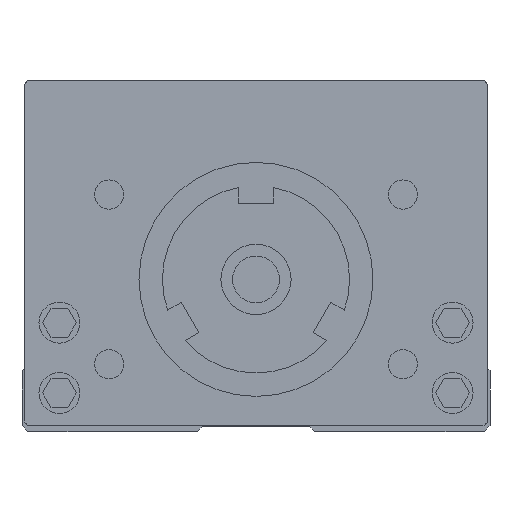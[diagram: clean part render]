
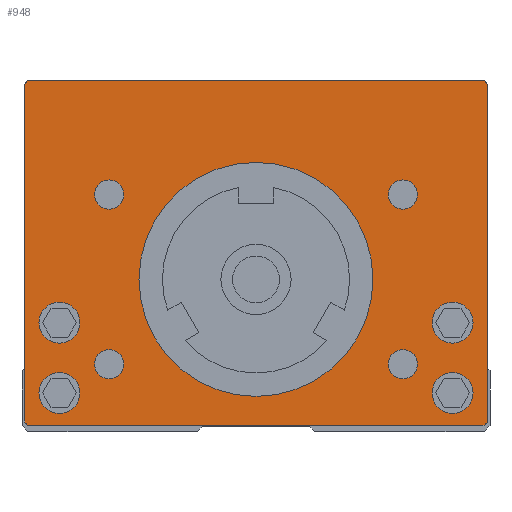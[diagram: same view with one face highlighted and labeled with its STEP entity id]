
A CAD part, front view. The second image highlights one B-rep face of the part: STEP entity #948.
In plain terms, the highlighted planar face has unit normal (0, -1, 0).
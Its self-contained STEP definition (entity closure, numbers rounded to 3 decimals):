
#399=FACE_BOUND('',#2227,.T.);
#400=FACE_BOUND('',#2228,.T.);
#401=FACE_BOUND('',#2229,.T.);
#402=FACE_BOUND('',#2230,.T.);
#403=FACE_BOUND('',#2231,.T.);
#404=FACE_BOUND('',#2232,.T.);
#405=FACE_BOUND('',#2233,.T.);
#406=FACE_BOUND('',#2234,.T.);
#407=FACE_BOUND('',#2235,.T.);
#408=FACE_BOUND('',#2236,.T.);
#948=ADVANCED_FACE('',(#399,#400,#401,#402,#403,#404,#405,#406,#407,#408),
#1437,.F.);
#1437=PLANE('',#9478);
#2227=EDGE_LOOP('',(#3371,#3372,#3373,#3374,#3375,#3376,#3377,#3378));
#2228=EDGE_LOOP('',(#3379));
#2229=EDGE_LOOP('',(#3380));
#2230=EDGE_LOOP('',(#3381));
#2231=EDGE_LOOP('',(#3382));
#2232=EDGE_LOOP('',(#3383));
#2233=EDGE_LOOP('',(#3384));
#2234=EDGE_LOOP('',(#3385));
#2235=EDGE_LOOP('',(#3386));
#2236=EDGE_LOOP('',(#3387));
#2850=CIRCLE('',#9404,1.25);
#2851=CIRCLE('',#9406,1.25);
#2852=CIRCLE('',#9408,1.25);
#2853=CIRCLE('',#9410,1.25);
#2859=CIRCLE('',#9420,1.75);
#2861=CIRCLE('',#9423,1.75);
#2863=CIRCLE('',#9426,1.75);
#2865=CIRCLE('',#9429,1.75);
#2867=CIRCLE('',#9432,10.);
#2883=CIRCLE('',#9461,0.5);
#2889=CIRCLE('',#9473,0.5);
#2890=CIRCLE('',#9475,0.5);
#2891=CIRCLE('',#9477,0.5);
#3371=ORIENTED_EDGE('',*,*,#6601,.F.);
#3372=ORIENTED_EDGE('',*,*,#6597,.F.);
#3373=ORIENTED_EDGE('',*,*,#6568,.F.);
#3374=ORIENTED_EDGE('',*,*,#6583,.F.);
#3375=ORIENTED_EDGE('',*,*,#6602,.F.);
#3376=ORIENTED_EDGE('',*,*,#6600,.F.);
#3377=ORIENTED_EDGE('',*,*,#6603,.F.);
#3378=ORIENTED_EDGE('',*,*,#6604,.F.);
#3379=ORIENTED_EDGE('',*,*,#6538,.F.);
#3380=ORIENTED_EDGE('',*,*,#6536,.F.);
#3381=ORIENTED_EDGE('',*,*,#6540,.F.);
#3382=ORIENTED_EDGE('',*,*,#6542,.F.);
#3383=ORIENTED_EDGE('',*,*,#6528,.F.);
#3384=ORIENTED_EDGE('',*,*,#6527,.F.);
#3385=ORIENTED_EDGE('',*,*,#6526,.F.);
#3386=ORIENTED_EDGE('',*,*,#6525,.F.);
#3387=ORIENTED_EDGE('',*,*,#6544,.F.);
#5673=VERTEX_POINT('',#12931);
#5674=VERTEX_POINT('',#12934);
#5675=VERTEX_POINT('',#12937);
#5676=VERTEX_POINT('',#12940);
#5682=VERTEX_POINT('',#12958);
#5684=VERTEX_POINT('',#12963);
#5686=VERTEX_POINT('',#12968);
#5688=VERTEX_POINT('',#12973);
#5690=VERTEX_POINT('',#12978);
#5708=VERTEX_POINT('',#13028);
#5709=VERTEX_POINT('',#13029);
#5716=VERTEX_POINT('',#13055);
#5722=VERTEX_POINT('',#13091);
#5723=VERTEX_POINT('',#13095);
#5724=VERTEX_POINT('',#13097);
#5725=VERTEX_POINT('',#13101);
#5726=VERTEX_POINT('',#13104);
#6525=EDGE_CURVE('',#5673,#5673,#2850,.T.);
#6526=EDGE_CURVE('',#5674,#5674,#2851,.T.);
#6527=EDGE_CURVE('',#5675,#5675,#2852,.T.);
#6528=EDGE_CURVE('',#5676,#5676,#2853,.T.);
#6536=EDGE_CURVE('',#5682,#5682,#2859,.T.);
#6538=EDGE_CURVE('',#5684,#5684,#2861,.T.);
#6540=EDGE_CURVE('',#5686,#5686,#2863,.T.);
#6542=EDGE_CURVE('',#5688,#5688,#2865,.T.);
#6544=EDGE_CURVE('',#5690,#5690,#2867,.T.);
#6568=EDGE_CURVE('',#5708,#5709,#7746,.T.);
#6583=EDGE_CURVE('',#5716,#5708,#2883,.T.);
#6597=EDGE_CURVE('',#5709,#5722,#2889,.T.);
#6600=EDGE_CURVE('',#5724,#5723,#2890,.T.);
#6601=EDGE_CURVE('',#5722,#5725,#7763,.T.);
#6602=EDGE_CURVE('',#5723,#5716,#7764,.T.);
#6603=EDGE_CURVE('',#5726,#5724,#7765,.T.);
#6604=EDGE_CURVE('',#5725,#5726,#2891,.T.);
#7746=LINE('',#13027,#8581);
#7763=LINE('',#13100,#8598);
#7764=LINE('',#13102,#8599);
#7765=LINE('',#13103,#8600);
#8581=VECTOR('',#10472,1.);
#8598=VECTOR('',#10543,1.);
#8599=VECTOR('',#10544,1.);
#8600=VECTOR('',#10545,1.);
#9404=AXIS2_PLACEMENT_3D('',#12930,#10364,#10365);
#9406=AXIS2_PLACEMENT_3D('',#12933,#10368,#10369);
#9408=AXIS2_PLACEMENT_3D('',#12936,#10372,#10373);
#9410=AXIS2_PLACEMENT_3D('',#12939,#10376,#10377);
#9420=AXIS2_PLACEMENT_3D('',#12957,#10398,#10399);
#9423=AXIS2_PLACEMENT_3D('',#12962,#10404,#10405);
#9426=AXIS2_PLACEMENT_3D('',#12967,#10410,#10411);
#9429=AXIS2_PLACEMENT_3D('',#12972,#10416,#10417);
#9432=AXIS2_PLACEMENT_3D('',#12977,#10422,#10423);
#9461=AXIS2_PLACEMENT_3D('',#13056,#10503,#10504);
#9473=AXIS2_PLACEMENT_3D('',#13092,#10533,#10534);
#9475=AXIS2_PLACEMENT_3D('',#13098,#10539,#10540);
#9477=AXIS2_PLACEMENT_3D('',#13105,#10546,#10547);
#9478=AXIS2_PLACEMENT_3D('',#13106,#10548,#10549);
#10364=DIRECTION('',(0.,-1.,0.));
#10365=DIRECTION('',(1.,0.,0.));
#10368=DIRECTION('',(0.,-1.,0.));
#10369=DIRECTION('',(1.,0.,0.));
#10372=DIRECTION('',(0.,-1.,0.));
#10373=DIRECTION('',(1.,0.,0.));
#10376=DIRECTION('',(0.,-1.,0.));
#10377=DIRECTION('',(1.,0.,0.));
#10398=DIRECTION('',(0.,-1.,0.));
#10399=DIRECTION('',(1.,0.,0.));
#10404=DIRECTION('',(0.,-1.,0.));
#10405=DIRECTION('',(1.,0.,0.));
#10410=DIRECTION('',(0.,-1.,0.));
#10411=DIRECTION('',(1.,0.,0.));
#10416=DIRECTION('',(0.,-1.,0.));
#10417=DIRECTION('',(1.,0.,0.));
#10422=DIRECTION('',(0.,-1.,0.));
#10423=DIRECTION('',(1.,0.,0.));
#10472=DIRECTION('',(1.,0.,0.));
#10503=DIRECTION('',(0.,1.,0.));
#10504=DIRECTION('',(-1.,0.,0.));
#10533=DIRECTION('',(0.,1.,0.));
#10534=DIRECTION('',(0.,0.,1.));
#10539=DIRECTION('',(0.,1.,0.));
#10540=DIRECTION('',(0.,0.,-1.));
#10543=DIRECTION('',(0.,0.,-1.));
#10544=DIRECTION('',(0.,0.,1.));
#10545=DIRECTION('',(-1.,0.,0.));
#10546=DIRECTION('',(0.,1.,0.));
#10547=DIRECTION('',(1.,0.,0.));
#10548=DIRECTION('',(0.,1.,0.));
#10549=DIRECTION('',(1.,0.,0.));
#12930=CARTESIAN_POINT('',(12.557,50.,5.25));
#12931=CARTESIAN_POINT('',(13.807,50.,5.25));
#12933=CARTESIAN_POINT('',(-12.557,50.,5.25));
#12934=CARTESIAN_POINT('',(-11.307,50.,5.25));
#12936=CARTESIAN_POINT('',(-12.557,50.,19.75));
#12937=CARTESIAN_POINT('',(-11.307,50.,19.75));
#12939=CARTESIAN_POINT('',(12.557,50.,19.75));
#12940=CARTESIAN_POINT('',(13.807,50.,19.75));
#12957=CARTESIAN_POINT('',(16.8,50.,2.8));
#12958=CARTESIAN_POINT('',(18.55,50.,2.8));
#12962=CARTESIAN_POINT('',(16.8,50.,8.8));
#12963=CARTESIAN_POINT('',(18.55,50.,8.8));
#12967=CARTESIAN_POINT('',(-16.8,50.,2.8));
#12968=CARTESIAN_POINT('',(-15.05,50.,2.8));
#12972=CARTESIAN_POINT('',(-16.8,50.,8.8));
#12973=CARTESIAN_POINT('',(-15.05,50.,8.8));
#12977=CARTESIAN_POINT('',(0.,50.,12.5));
#12978=CARTESIAN_POINT('',(10.,50.,12.5));
#13027=CARTESIAN_POINT('',(-19.3,50.,29.5));
#13028=CARTESIAN_POINT('',(-19.3,50.,29.5));
#13029=CARTESIAN_POINT('',(19.3,50.,29.5));
#13055=CARTESIAN_POINT('',(-19.8,50.,29.));
#13056=CARTESIAN_POINT('',(-19.3,50.,29.));
#13091=CARTESIAN_POINT('',(19.8,50.,29.));
#13092=CARTESIAN_POINT('',(19.3,50.,29.));
#13095=CARTESIAN_POINT('',(-19.8,50.,0.5));
#13097=CARTESIAN_POINT('',(-19.3,50.,0.));
#13098=CARTESIAN_POINT('',(-19.3,50.,0.5));
#13100=CARTESIAN_POINT('',(19.8,50.,29.));
#13101=CARTESIAN_POINT('',(19.8,50.,0.5));
#13102=CARTESIAN_POINT('',(-19.8,50.,0.5));
#13103=CARTESIAN_POINT('',(19.3,50.,0.));
#13104=CARTESIAN_POINT('',(19.3,50.,0.));
#13105=CARTESIAN_POINT('',(19.3,50.,0.5));
#13106=CARTESIAN_POINT('',(19.8,50.,29.5));
